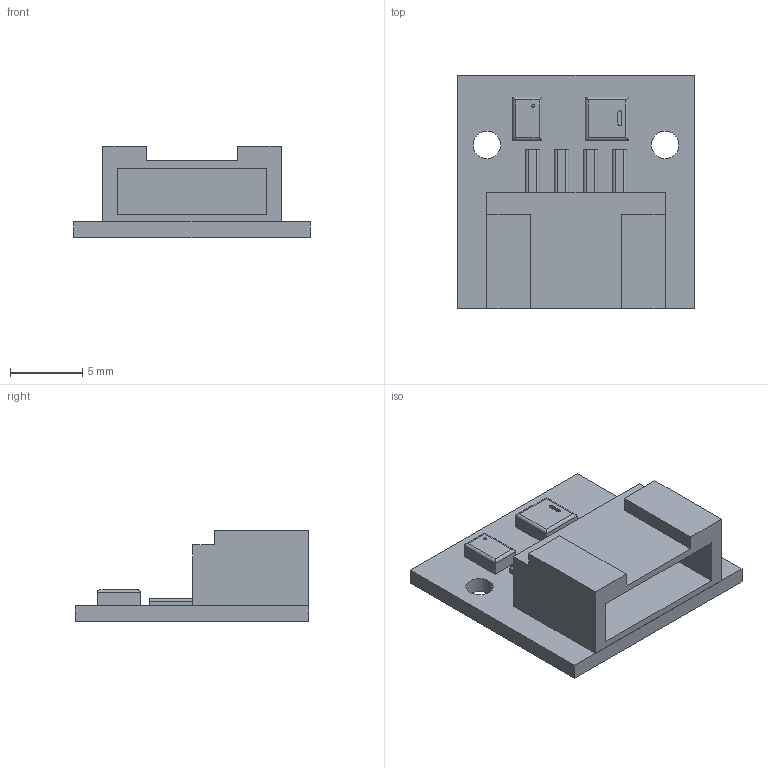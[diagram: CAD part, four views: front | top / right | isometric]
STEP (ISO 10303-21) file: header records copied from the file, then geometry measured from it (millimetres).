
FILE_DESCRIPTION(/* description */ (''),/* implementation_level */ '2;1');
FILE_NAME(/* name */ 'D:/LoveHurts/AHT20+BMP280 v1.step',/* time_stamp */ '2022-06-08T00:14:06+03:00',/* author */ (''),/* organization */ (''),/* preprocessor_version */ 'ST-DEVELOPER v19',/* originating_system */ 'Autodesk Translation Framework v11.7.0.108',/* authorisation */ '');
FILE_SCHEMA (('AUTOMOTIVE_DESIGN { 1 0 10303 214 3 1 1 }'));
Length unit declared in the file: millimetre
Products named in the file (1): AHT20+BMP280
Bounding box: 16.3 x 16.1 x 6.3 mm (x, y, z)
Volume: 558.9 mm3; surface area: 1256.8 mm2
Topology: 8 solids, 8 shells, 84 faces, 187 edges, 122 vertices
Faces by surface type: plane 63, cylinder 21
Full cylindrical faces by diameter (mm): 0.2 x1, 1.9 x2
Entity records: 2363 total; most frequent: CARTESIAN_POINT 394, DIRECTION 391, ORIENTED_EDGE 374, EDGE_CURVE 187, LINE 153, VECTOR 153, VERTEX_POINT 122, AXIS2_PLACEMENT_3D 119
